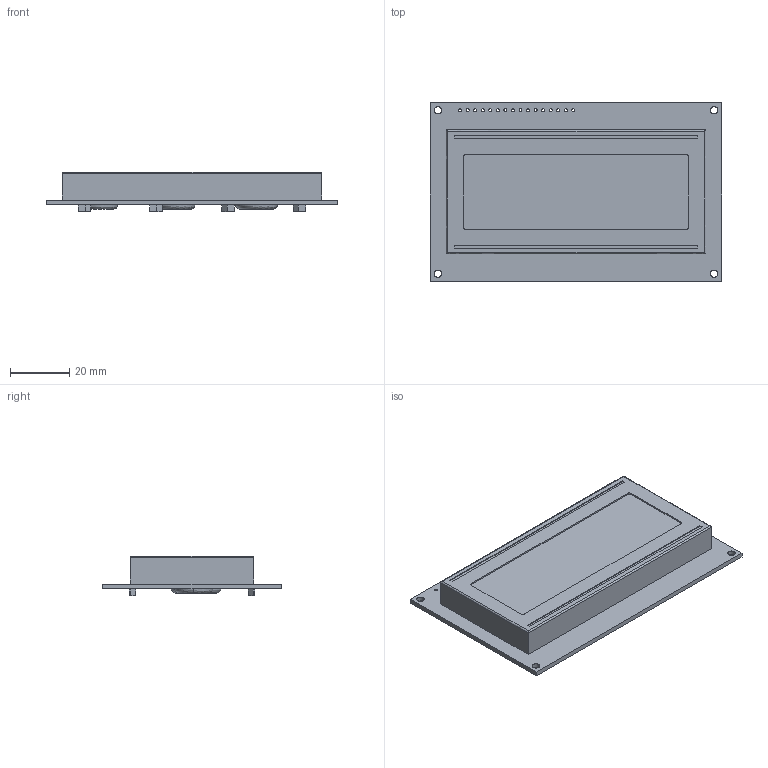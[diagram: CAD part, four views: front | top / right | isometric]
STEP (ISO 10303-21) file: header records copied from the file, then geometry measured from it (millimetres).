
FILE_DESCRIPTION (( 'STEP AP214' ), '1' );
FILE_NAME ('NHD-0420DZ-FSW-FBW.STEP', '2018-02-27T22:05:56', ( '' ), ( '' ), 'SwSTEP 2.0', 'SolidWorks 2018', '' );
FILE_SCHEMA (( 'AUTOMOTIVE_DESIGN' ));
Length unit declared in the file: millimetre
Products named in the file (1): NHD-0420DZ-FSW-FBW
Bounding box: 98 x 60 x 13.2 mm (x, y, z)
Volume: 42837.7 mm3; surface area: 15176.9 mm2
Topology: 1 solids, 1 shells, 139 faces, 362 edges, 240 vertices
Faces by surface type: bspline 139
Entity records: 4476 total; most frequent: CARTESIAN_POINT 2231, ORIENTED_EDGE 724, EDGE_CURVE 362, B_SPLINE_CURVE_WITH_KNOTS 266, VERTEX_POINT 240, EDGE_LOOP 194, FACE_OUTER_BOUND 139, ADVANCED_FACE 139
